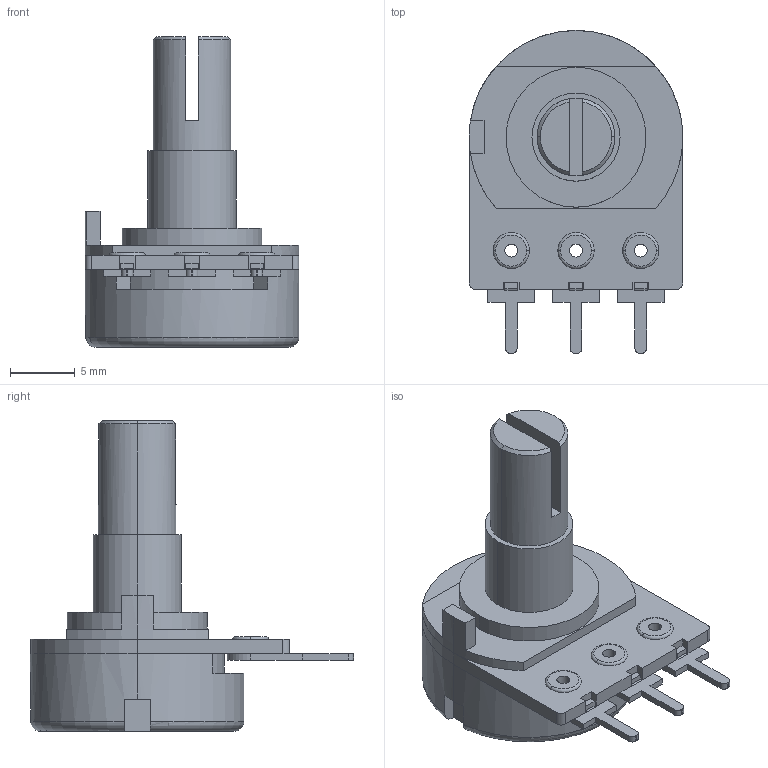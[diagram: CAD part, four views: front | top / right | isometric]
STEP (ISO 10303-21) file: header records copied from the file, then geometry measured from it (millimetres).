
FILE_DESCRIPTION(('CATIA V5 STEP Exchange'),'2;1');
FILE_NAME('X:\XDrive\Homepage\homes\techecke\arduino\downloads\Potentiometer.stp','2024-12-17T11:00:29+00:00',('none'),('none'),'CATIA Version 5 Release 19 SP 2 (IN-10)','CATIA V5 STEP AP203','none');
FILE_SCHEMA(('CONFIG_CONTROL_DESIGN'));
Length unit declared in the file: millimetre
Products named in the file (1): Potentiometer
Bounding box: 16.5 x 24.95 x 24 mm (x, y, z)
Volume: 2294.7 mm3; surface area: 2434 mm2
Topology: 6 solids, 6 shells, 159 faces, 412 edges, 274 vertices
Faces by surface type: plane 98, cylinder 43, torus 8, extrusion 6, cone 4
Entity records: 4721 total; most frequent: CARTESIAN_POINT 957, ORIENTED_EDGE 824, DIRECTION 620, EDGE_CURVE 412, VERTEX_POINT 274, VECTOR 273, LINE 267, AXIS2_PLACEMENT_3D 234
